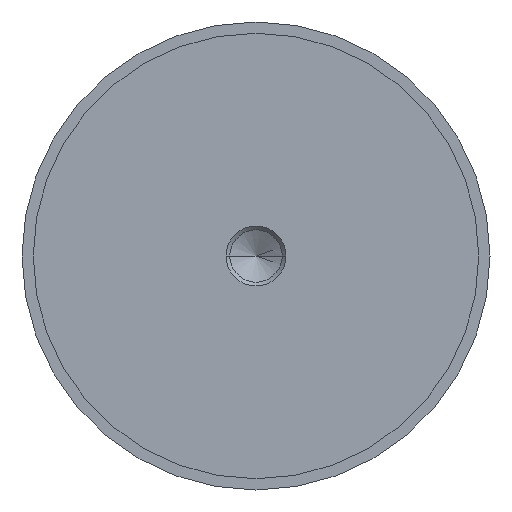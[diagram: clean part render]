
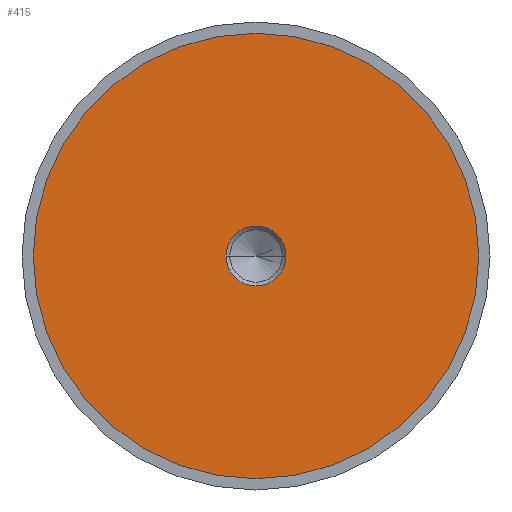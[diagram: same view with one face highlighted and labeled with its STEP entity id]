
A CAD part, left-side view. The second image highlights one B-rep face of the part: STEP entity #415.
In plain terms, the highlighted planar face has unit normal (-1, 0, 0).
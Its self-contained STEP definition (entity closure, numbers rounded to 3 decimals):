
#3 = AXIS2_PLACEMENT_3D ( 'NONE', #460, #271, #738 ) ;
#23 = VERTEX_POINT ( 'NONE', #611 ) ;
#26 = EDGE_LOOP ( 'NONE', ( #624, #216 ) ) ;
#40 = EDGE_CURVE ( 'NONE', #871, #422, #369, .T. ) ;
#80 = CARTESIAN_POINT ( 'NONE',  ( -27.49, 59.5, 0. ) ) ;
#91 = CIRCLE ( 'NONE', #501, 7.99 ) ;
#151 = AXIS2_PLACEMENT_3D ( 'NONE', #337, #699, #774 ) ;
#159 = CARTESIAN_POINT ( 'NONE',  ( -27.49, 0., -59.5 ) ) ;
#161 = DIRECTION ( 'NONE',  ( 0., 0., -1. ) ) ;
#216 = ORIENTED_EDGE ( 'NONE', *, *, #713, .T. ) ;
#228 = PLANE ( 'NONE',  #819 ) ;
#267 = DIRECTION ( 'NONE',  ( 0., 0., -1. ) ) ;
#271 = DIRECTION ( 'NONE',  ( 1., 0., 0. ) ) ;
#291 = CARTESIAN_POINT ( 'NONE',  ( -27.49, 0., 0. ) ) ;
#337 = CARTESIAN_POINT ( 'NONE',  ( -27.49, 0., 0. ) ) ;
#340 = DIRECTION ( 'NONE',  ( 0., 0., 1. ) ) ;
#348 = FACE_BOUND ( 'NONE', #854, .T. ) ;
#369 = CIRCLE ( 'NONE', #3, 7.99 ) ;
#391 = EDGE_CURVE ( 'NONE', #422, #871, #91, .T. ) ;
#415 = ADVANCED_FACE ( 'NONE', ( #348, #542 ), #228, .F. ) ;
#420 = CIRCLE ( 'NONE', #822, 59.5 ) ;
#422 = VERTEX_POINT ( 'NONE', #496 ) ;
#431 = VERTEX_POINT ( 'NONE', #159 ) ;
#460 = CARTESIAN_POINT ( 'NONE',  ( -27.49, 0., 0. ) ) ;
#496 = CARTESIAN_POINT ( 'NONE',  ( -27.49, 7.99, 0. ) ) ;
#501 = AXIS2_PLACEMENT_3D ( 'NONE', #291, #631, #267 ) ;
#542 = FACE_OUTER_BOUND ( 'NONE', #26, .T. ) ;
#570 = ORIENTED_EDGE ( 'NONE', *, *, #40, .T. ) ;
#580 = CARTESIAN_POINT ( 'NONE',  ( -27.49, -7.99, 0. ) ) ;
#611 = CARTESIAN_POINT ( 'NONE',  ( -27.49, 0., 59.5 ) ) ;
#624 = ORIENTED_EDGE ( 'NONE', *, *, #725, .T. ) ;
#626 = DIRECTION ( 'NONE',  ( -1., 0., 0. ) ) ;
#631 = DIRECTION ( 'NONE',  ( 1., 0., 0. ) ) ;
#670 = ORIENTED_EDGE ( 'NONE', *, *, #391, .T. ) ;
#699 = DIRECTION ( 'NONE',  ( -1., 0., 0. ) ) ;
#713 = EDGE_CURVE ( 'NONE', #431, #23, #805, .T. ) ;
#725 = EDGE_CURVE ( 'NONE', #23, #431, #420, .T. ) ;
#738 = DIRECTION ( 'NONE',  ( 0., 0., -1. ) ) ;
#759 = DIRECTION ( 'NONE',  ( 1., 0., 0. ) ) ;
#774 = DIRECTION ( 'NONE',  ( 0., 0., 1. ) ) ;
#805 = CIRCLE ( 'NONE', #151, 59.5 ) ;
#819 = AXIS2_PLACEMENT_3D ( 'NONE', #80, #759, #161 ) ;
#822 = AXIS2_PLACEMENT_3D ( 'NONE', #832, #626, #340 ) ;
#832 = CARTESIAN_POINT ( 'NONE',  ( -27.49, 0., 0. ) ) ;
#854 = EDGE_LOOP ( 'NONE', ( #570, #670 ) ) ;
#871 = VERTEX_POINT ( 'NONE', #580 ) ;
